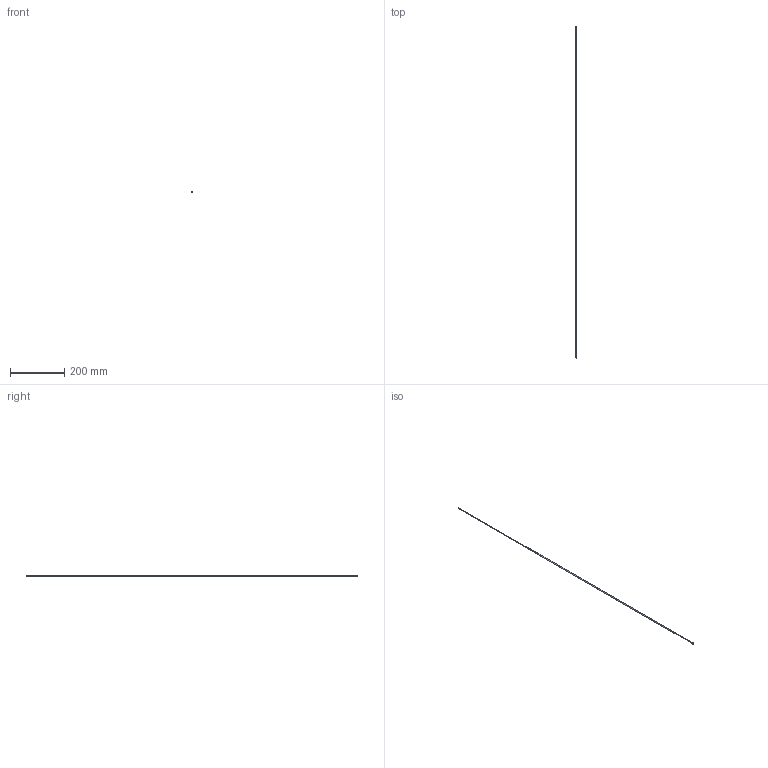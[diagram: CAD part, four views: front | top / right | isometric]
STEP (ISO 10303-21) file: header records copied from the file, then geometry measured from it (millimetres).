
FILE_DESCRIPTION(/* description */ (''),/* implementation_level */ '2;1');
FILE_NAME(/* name */ 'C:/Users/drich/Desktop/HF125T-48 v2.step',/* time_stamp */ '2019-12-30T13:35:41-06:00',/* author */ (''),/* organization */ (''),/* preprocessor_version */ 'ST-DEVELOPER v18',/* originating_system */ 'Autodesk Translation Framework v8.12.0.6',/* authorisation */ '');
FILE_SCHEMA (('AUTOMOTIVE_DESIGN { 1 0 10303 214 3 1 1 }'));
Length unit declared in the file: inch
Products named in the file (1): HF125T-48
Bounding box: 4.8 x 1219.2 x 4.8 mm (x, y, z)
Volume: 2362.9 mm3; surface area: 22810.9 mm2
Topology: 1 solids, 1 shells, 11 faces, 27 edges, 20 vertices
Faces by surface type: cylinder 4, plane 4, torus 2, cone 1
Full cylindrical faces by diameter (mm): 2.769 x1, 3.175 x1, 4.727 x1, 4.801 x1
Entity records: 390 total; most frequent: DIRECTION 73, CARTESIAN_POINT 59, ORIENTED_EDGE 54, AXIS2_PLACEMENT_3D 34, EDGE_CURVE 27, CIRCLE 22, VERTEX_POINT 20, EDGE_LOOP 15
